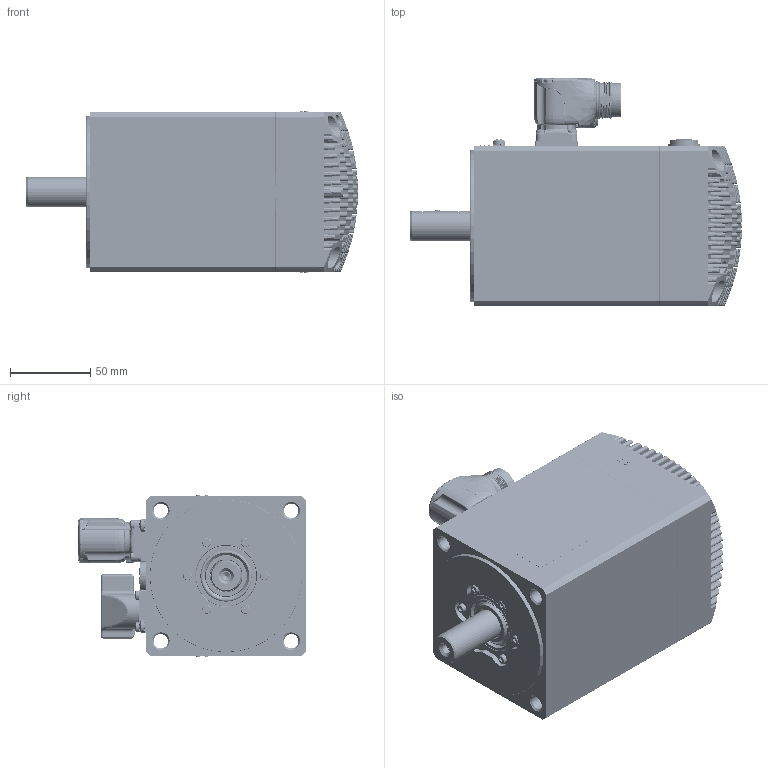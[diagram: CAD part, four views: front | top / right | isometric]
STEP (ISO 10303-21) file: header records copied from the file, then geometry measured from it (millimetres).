
FILE_DESCRIPTION((''),'2;1');
FILE_NAME('32190015741_ASM','2022-04-13T09:16:05',('gabrielec'),(''),'CREO PARAMETRIC BY PTC INC, 2021304','CREO PARAMETRIC BY PTC INC, 2021304','');
FILE_SCHEMA(('AP242_MANAGED_MODEL_BASED_3D_ENGINEERING_MIM_LF { 1 0 10303 442 1 1 4 }'));
Products named in the file (36): 50992N-0; 32149915563_ASM; 22320015079; 50938N-0; 22320015079_ASM; 32050015014_ASM; 32060015580_ASM; 51941N-1; 32090015034_ASM; NRG_001; M3X16_GBT70-1; GB_T862_1; M4X8_GBT818_CU; 51093N-0; 32159915247_ASM; 22160015160; MENTOR-1292_9013; CEMBRE_FD9; CEMBRE_2053M16N; 32150015177_ASM; UNI7687_M3X8_INOX; CAN_OPEN; 33200203857_AF7_ASM; 31500203857_AF7_ASM; 50941N-0; UNI7687_M3X6_INOX; 22210015021; 32150015175_ASM; UNI5931_M4X16; LIP_SEAL_TW05; 22250015024; 22250015126; 43500000229; 43500000050; PHOENIX_1605512; 32190015741_ASM
Assembly tree (63 placements, depth 7):
  32190015741_ASM
    32159915247_ASM
      32149915563_ASM
        50992N-0
      32090015034_ASM
        32060015580_ASM
          32050015014_ASM
            22320015079_ASM
              22320015079
              50938N-0
        51941N-1
      NRG_001  x6
      M3X16_GBT70-1  x6
      GB_T862_1  x2
      M4X8_GBT818_CU  x2
      51093N-0
    32150015177_ASM
      22160015160
      MENTOR-1292_9013  x8
      CEMBRE_FD9
      CEMBRE_2053M16N
    UNI7687_M3X8_INOX  x4
    31500203857_AF7_ASM
      33200203857_AF7_ASM
        CAN_OPEN
    50941N-0  x2
    UNI7687_M3X6_INOX  x3
    32150015175_ASM
      22210015021
    UNI5931_M4X16  x4
    LIP_SEAL_TW05
    22250015024
    22250015126
    43500000229
    43500000050
    PHOENIX_1605512
Bounding box: 207 x 142.41 x 100.8 mm (x, y, z)
Volume: 643927.4 mm3; surface area: 322924.6 mm2
Topology: 73 solids, 100 shells, 4431 faces, 11165 edges, 7076 vertices
Faces by surface type: plane 1475, cylinder 1094, cone 649, bspline 596, torus 352, sphere 243, revolution 11, extrusion 11
Entity records: 191625 total; most frequent: CARTESIAN_POINT 66870, ORIENTED_EDGE 19634, DIRECTION 17764, PRESENTATION_STYLE_ASSIGNMENT 10099, EDGE_CURVE 9872, STYLED_ITEM 9869, CURVE_STYLE 9798, AXIS2_PLACEMENT_3D 6955
